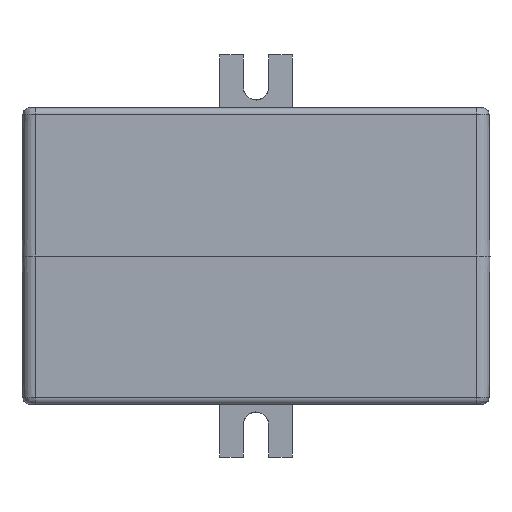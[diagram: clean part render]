
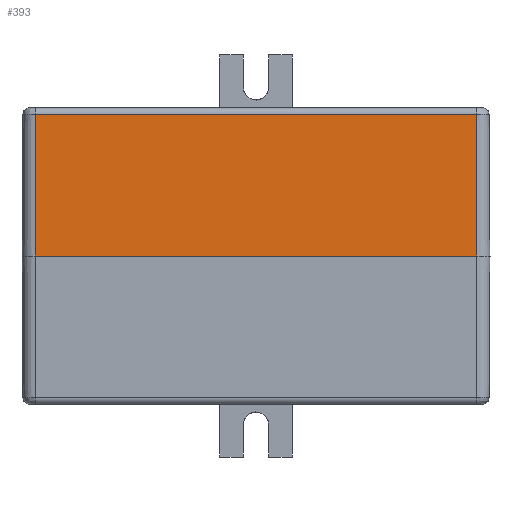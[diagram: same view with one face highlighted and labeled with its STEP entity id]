
A CAD part, front view. The second image highlights one B-rep face of the part: STEP entity #393.
In plain terms, the highlighted planar face has unit normal (0, -1, 0.007).
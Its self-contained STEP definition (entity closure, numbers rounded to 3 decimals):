
#185=FACE_OUTER_BOUND('',#762,.T.);
#393=ADVANCED_FACE('',(#185),#602,.T.);
#602=PLANE('',#3879);
#762=EDGE_LOOP('',(#1141,#1142,#1143,#1144));
#1141=ORIENTED_EDGE('',*,*,#2574,.T.);
#1142=ORIENTED_EDGE('',*,*,#2575,.T.);
#1143=ORIENTED_EDGE('',*,*,#2572,.F.);
#1144=ORIENTED_EDGE('',*,*,#2535,.T.);
#2187=VERTEX_POINT('',#5316);
#2188=VERTEX_POINT('',#5318);
#2223=VERTEX_POINT('',#5392);
#2224=VERTEX_POINT('',#5396);
#2535=EDGE_CURVE('',#2188,#2187,#3071,.T.);
#2572=EDGE_CURVE('',#2188,#2223,#3104,.T.);
#2574=EDGE_CURVE('',#2187,#2224,#3105,.T.);
#2575=EDGE_CURVE('',#2224,#2223,#3106,.T.);
#3071=LINE('',#5317,#3489);
#3104=LINE('',#5391,#3522);
#3105=LINE('',#5395,#3523);
#3106=LINE('',#5397,#3524);
#3489=VECTOR('',#4236,1.);
#3522=VECTOR('',#4281,1.);
#3523=VECTOR('',#4286,1.);
#3524=VECTOR('',#4287,1.);
#3879=AXIS2_PLACEMENT_3D('',#5398,#4288,#4289);
#4236=DIRECTION('',(1.,0.,0.));
#4281=DIRECTION('',(0.,0.007,1.));
#4286=DIRECTION('',(0.,0.007,1.));
#4287=DIRECTION('',(-1.,0.,0.));
#4288=DIRECTION('',(0.,-1.,0.007));
#4289=DIRECTION('',(0.,-0.007,-1.));
#5316=CARTESIAN_POINT('',(33.5,-40.5,0.));
#5317=CARTESIAN_POINT('',(-33.5,-40.5,0.));
#5318=CARTESIAN_POINT('',(-33.5,-40.5,0.));
#5391=CARTESIAN_POINT('',(-33.5,-40.5,0.));
#5392=CARTESIAN_POINT('',(-33.5,-40.35,21.507));
#5395=CARTESIAN_POINT('',(33.5,-40.5,0.));
#5396=CARTESIAN_POINT('',(33.5,-40.35,21.507));
#5397=CARTESIAN_POINT('',(-33.5,-40.35,21.507));
#5398=CARTESIAN_POINT('',(-33.5,-40.5,0.));
